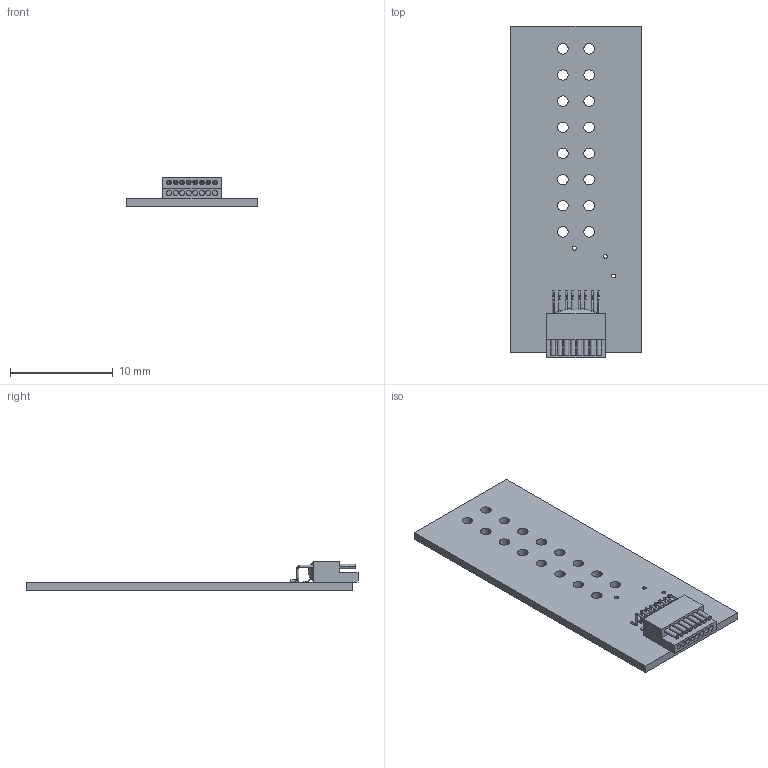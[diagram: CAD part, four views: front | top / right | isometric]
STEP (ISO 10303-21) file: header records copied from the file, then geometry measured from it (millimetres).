
FILE_DESCRIPTION (( 'STEP AP214' ), '1' );
FILE_NAME ('RHS_SPI_Cable_Adapter.STEP', '2022-03-22T23:31:10', ( '' ), ( '' ), 'SwSTEP 2.0', 'SolidWorks 2022', '' );
FILE_SCHEMA (( 'AUTOMOTIVE_DESIGN' ));
Length unit declared in the file: inch
Products named in the file (3): A79633-001; RHS_SPI_Cable_Adapter; RHS_SPI_Cable_Adapter_PCB
Assembly tree (2 placements, depth 2):
  RHS_SPI_Cable_Adapter
    RHS_SPI_Cable_Adapter_PCB
    A79633-001
Bounding box: 12.7 x 32.26 x 2.76 mm (x, y, z)
Volume: 341.9 mm3; surface area: 1096.2 mm2
Topology: 2 solids, 2 shells, 310 faces, 791 edges, 499 vertices
Faces by surface type: cylinder 164, plane 90, bspline 40, cone 16
Entity records: 13533 total; most frequent: CARTESIAN_POINT 4081, DIRECTION 1600, ORIENTED_EDGE 1542, EDGE_CURVE 771, AXIS2_PLACEMENT_3D 637, VERTEX_POINT 499, EDGE_LOOP 384, CIRCLE 362
